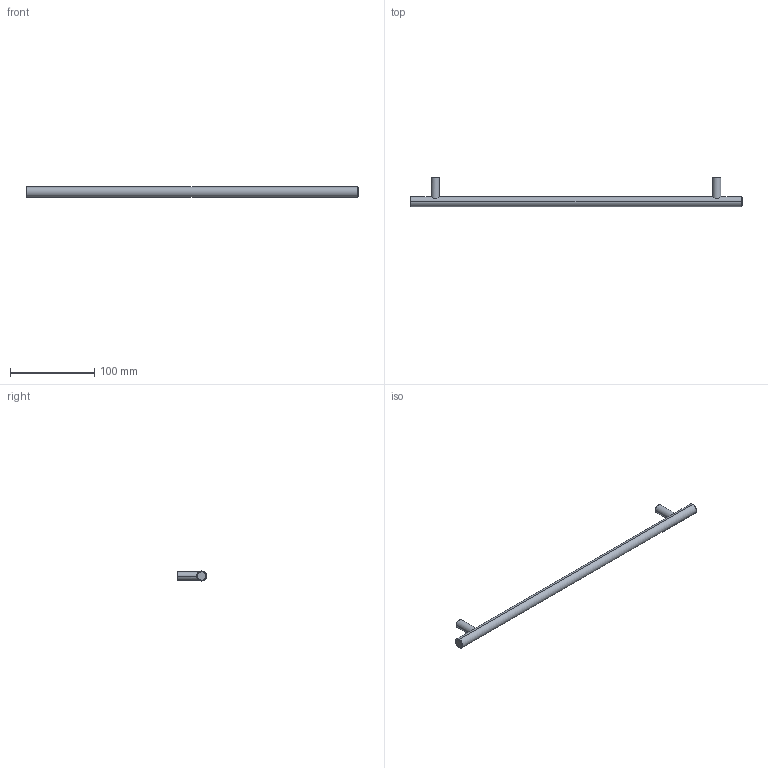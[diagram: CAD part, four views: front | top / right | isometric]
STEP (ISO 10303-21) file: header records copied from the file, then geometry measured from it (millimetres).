
FILE_DESCRIPTION( ( '' ), '1' );
FILE_NAME( 'C:/Documents and Settings/Sachin/Desktop/Sheet 10_1/stp/9070733.stp', '2013-10-22T12:35:03', ( '' ), ( '' ), ' ', ' ', ' ' );
FILE_SCHEMA( ( 'CONFIG_CONTROL_DESIGN' ) );
Length unit declared in the file: millimetre
Products named in the file (1): 1
Bounding box: 394 x 35 x 12 mm (x, y, z)
Volume: 48047.8 mm3; surface area: 16751.2 mm2
Topology: 1 solids, 1 shells, 20 faces, 44 edges, 30 vertices
Faces by surface type: cylinder 10, plane 6, torus 4
Entity records: 738 total; most frequent: CARTESIAN_POINT 229, DIRECTION 108, ORIENTED_EDGE 88, AXIS2_PLACEMENT_3D 49, EDGE_CURVE 44, VERTEX_POINT 30, CIRCLE 28, EDGE_LOOP 24
